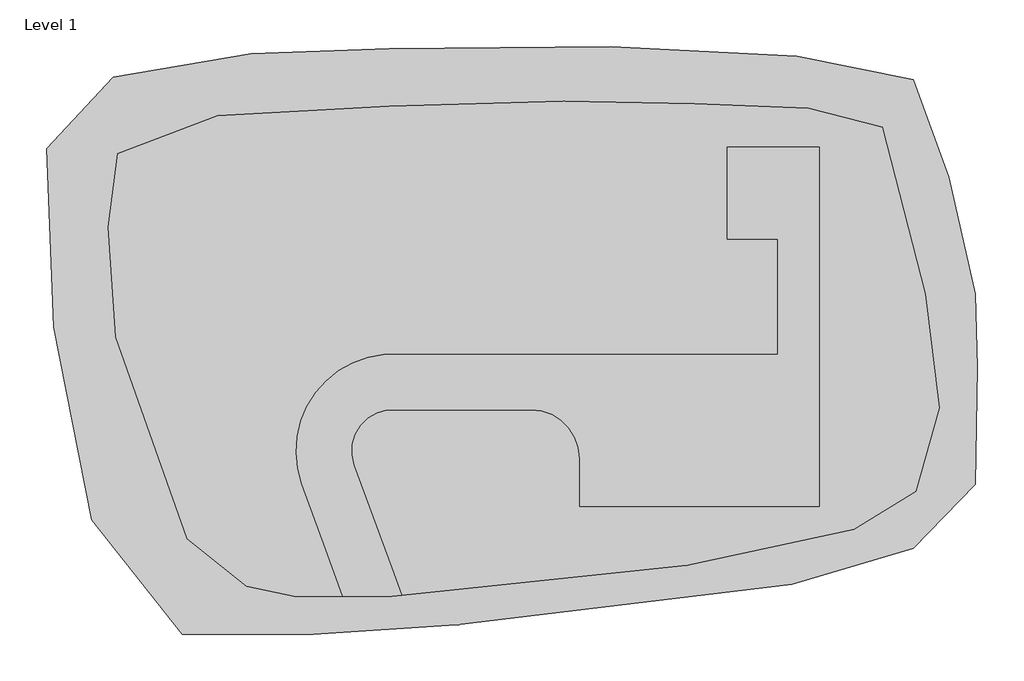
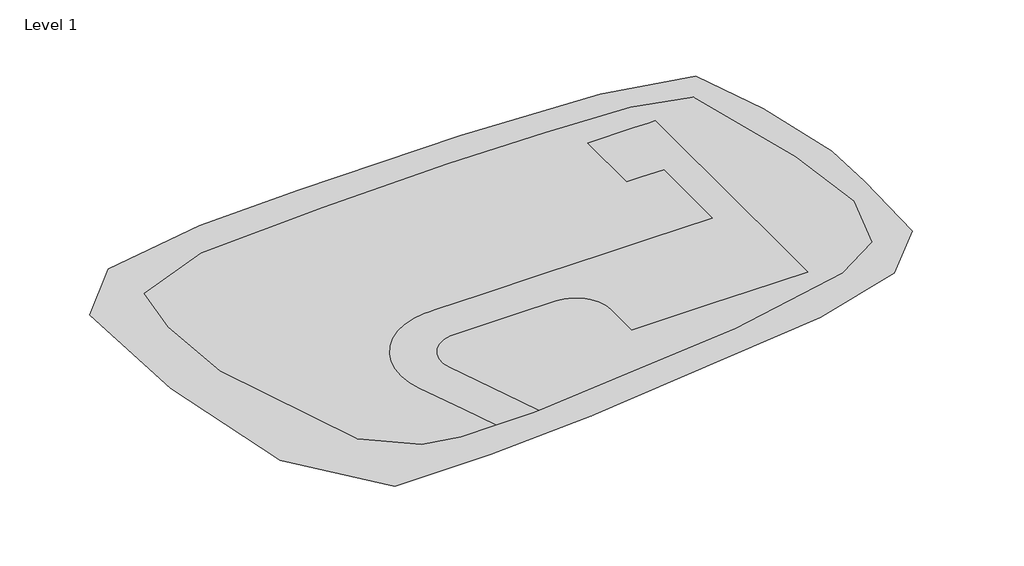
# One storey: 3 proxies.
"""IFC4 building model written with IfcOpenShell, lengths in millimetres."""

import ifcopenshell
import ifcopenshell.guid

model = None  # the IFC model being written
_history = None  # IfcOwnerHistory: only IFC2X3 demands one
_inside = {}  # id of a spatial element -> (the spatial element, [elements in it])
_under = {}  # id of a project, library or spatial element -> (it, [spatial elements below it])
_declared = {}  # id of a project -> (the project, [libraries it declares])
_typed = {}  # id of a type object -> (the type object, [elements of that type])
_made_of = {}  # id of a material, layer set ... -> (it, [elements and type objects made of it])


def new_model(schema):
    """Start an empty IFC model of exactly this schema.

    Asked for "IFC4X3", IfcOpenShell would pick the latest addendum, in which some entities
    have other attributes; the version numbers below select the first issue.
    IFC2X3 requires an IfcOwnerHistory on every rooted entity: one is made here for all.
    """
    global model, _history
    if schema == "IFC4X3":
        model = ifcopenshell.file(schema_version=(4, 3, 0, 0))
    else:
        model = ifcopenshell.file(schema=schema)
    _inside.clear()
    _under.clear()
    _declared.clear()
    _typed.clear()
    _made_of.clear()
    _history = None
    if model.schema == "IFC2X3":
        org = make("IfcOrganization", Name="unknown")
        user = make(
            "IfcPersonAndOrganization",
            ThePerson=make("IfcPerson", FamilyName="unknown"),
            TheOrganization=org,
        )
        app = make(
            "IfcApplication",
            ApplicationDeveloper=org,
            Version="unknown",
            ApplicationFullName="unknown",
            ApplicationIdentifier="unknown",
        )
        _history = make(
            "IfcOwnerHistory",
            OwningUser=user,
            OwningApplication=app,
            ChangeAction="ADDED",
            CreationDate=0,
        )
    return model


def make(cls, **values):
    """One entity of the class cls with the attributes given. An attribute that is None is left unset."""
    return model.create_entity(
        cls, **{name: value for name, value in values.items() if value is not None}
    )


def rooted(cls, **values):
    """An entity with a GlobalId (a new one), such as an element, a storey or a relation."""
    return make(cls, GlobalId=ifcopenshell.guid.new(), OwnerHistory=_history, **values)


def si_unit(unit_type, name, prefix=None):
    """IfcSIUnit, for example si_unit("LENGTHUNIT", "METRE", prefix="MILLI")."""
    return make("IfcSIUnit", UnitType=unit_type, Prefix=prefix, Name=name)


def assignment(units):
    """IfcUnitAssignment: the units of a project."""
    return None if units is None else make("IfcUnitAssignment", Units=units)


def point(xyz):
    """IfcCartesianPoint."""
    return None if xyz is None else make("IfcCartesianPoint", Coordinates=xyz)


def direction(xyz):
    """IfcDirection."""
    return None if xyz is None else make("IfcDirection", DirectionRatios=xyz)


def frame(location, z_axis=None, x_axis=None):
    """IfcAxis2Placement3D, a coordinate frame: its origin and axes. An axis left out is left unset."""
    return make(
        "IfcAxis2Placement3D",
        Location=point(location),
        Axis=direction(z_axis),
        RefDirection=direction(x_axis),
    )


def origin():
    """The frame at (0, 0, 0) with its axes left unset."""
    return frame((0.0, 0.0, 0.0))


def place(relative_to, where):
    """IfcLocalPlacement: puts the frame where relative to a parent placement (None: the world)."""
    return make(
        "IfcLocalPlacement", PlacementRelTo=relative_to, RelativePlacement=where
    )


def context(
    kind, dimensions, precision=None, world=None, true_north=None, identifier=None
):
    """IfcGeometricRepresentationContext, for example the 3D "Model" context."""
    return make(
        "IfcGeometricRepresentationContext",
        ContextIdentifier=identifier,
        ContextType=kind,
        CoordinateSpaceDimension=dimensions,
        Precision=precision,
        WorldCoordinateSystem=world,
        TrueNorth=true_north,
    )


def project(units=None, contexts=None):
    """IfcProject with its units and contexts."""
    return rooted(
        "IfcProject",
        Name="project",
        RepresentationContexts=contexts,
        UnitsInContext=assignment(units),
    )


def spatial(cls, under=None, at=None, **own):
    """A site, building, storey or space (cls), placed at a placement, below another one or the project."""
    s = rooted(cls, ObjectPlacement=at, **own)
    if under is not None:
        _under.setdefault(under.id(), (under, []))[1].append(s)
    return s


def point_list(points):
    """IfcCartesianPointList2D or 3D."""
    cls = (
        "IfcCartesianPointList2D" if len(points[0]) == 2 else "IfcCartesianPointList3D"
    )
    return make(cls, CoordList=points)


def triangles(points, corners, closed=None, point_numbers=None):
    """IfcTriangulatedFaceSet: each triangle names its three corners, points numbered from 1."""
    return make(
        "IfcTriangulatedFaceSet",
        Coordinates=point_list(points),
        Closed=closed,
        CoordIndex=corners,
        PnIndex=point_numbers,
    )


def shape(context_of_items, identifier, shape_type, items):
    """IfcShapeRepresentation: the items that make up one representation, for example the "Body"."""
    return make(
        "IfcShapeRepresentation",
        ContextOfItems=context_of_items,
        RepresentationIdentifier=identifier,
        RepresentationType=shape_type,
        Items=items,
    )


def made_of(thing, what):
    """Note that an element or type object is made of a material, layer set ...; save() writes the relation."""
    if what is not None:
        _made_of.setdefault(what.id(), (what, []))[1].append(thing)
    return thing


def element(
    cls,
    number,
    at=None,
    inside=None,
    cuts=None,
    type_object=None,
    material=None,
    context=None,
    identifier="Body",
    shape_type=None,
    held_by="IfcProductDefinitionShape",
    body=None,
    shapes=None,
    **own,
):
    """One element of the class cls, such as IfcWall. Its Tag is "e" and its number.

    at: its placement. inside: the storey or other place that contains it. cuts: it is an
    opening in that element (IfcRelVoidsElement). A single representation is given by context,
    identifier, shape_type and body (its items); several are given by shapes. held_by: the class
    of the entity that holds the representations. save() writes the other relations.
    """
    e = rooted(cls, Tag="e%d" % number, ObjectPlacement=at, **own)
    if body is not None:
        shapes = [shape(context, identifier, shape_type, body)]
    if shapes is not None:
        e.Representation = make(held_by, Representations=shapes)
    if inside is not None:
        _inside.setdefault(inside.id(), (inside, []))[1].append(e)
    if cuts is not None:
        rooted(
            "IfcRelVoidsElement", RelatingBuildingElement=cuts, RelatedOpeningElement=e
        )
    if type_object is not None:
        _typed.setdefault(type_object.id(), (type_object, []))[1].append(e)
    return made_of(e, material)


def aggregate(whole, parts):
    """IfcRelAggregates: a whole, such as a stair, and the parts it consists of."""
    return rooted("IfcRelAggregates", RelatingObject=whole, RelatedObjects=parts)


def save(model, path):
    """Write the relations noted so far, then the file.

    IfcRelAggregates (storeys below a building ...), IfcRelContainedInSpatialStructure (elements
    in a storey), IfcRelDefinesByType, IfcRelAssociatesMaterial and IfcRelDeclares: one each for
    every whole, place, type object, material and project.
    """
    for whole, parts in _under.values():
        aggregate(whole, parts)
    for where, things in _inside.values():
        rooted(
            "IfcRelContainedInSpatialStructure",
            RelatedElements=things,
            RelatingStructure=where,
        )
    for kind, things in _typed.values():
        rooted("IfcRelDefinesByType", RelatedObjects=things, RelatingType=kind)
    for what, things in _made_of.values():
        rooted("IfcRelAssociatesMaterial", RelatedObjects=things, RelatingMaterial=what)
    for by, libraries in _declared.values():
        rooted("IfcRelDeclares", RelatingContext=by, RelatedDefinitions=libraries)
    model.write(path)


model = new_model("IFC4")

# Units and contexts
model_context = context("Model", 3, world=origin())
ifc_project = project(units=[si_unit("LENGTHUNIT", "METRE", prefix="MILLI")], contexts=[model_context])

# Site, building, storey
site = spatial("IfcSite", under=ifc_project)
building = spatial("IfcBuilding", under=site)
storey = spatial("IfcBuildingStorey", under=building, Name="Level 1", Elevation=0.0)

# Proxies
placement = place(None, origin())
element("IfcBuildingElementProxy", 1, Name="Building Element Proxy", at=placement, inside=storey, context=model_context, shape_type="Tessellation", body=[
    triangles([(-16670.5417511, 5651.6538666, 0.0), (-16985.1585938, 8011.2813492, 0.0), (-14782.8395325, 10370.9088318, 0.0), (-10220.8924072, 11157.4515198, 0.0), (-5658.9458633, 11314.7593597, 0.0), (1655.8995071, 11393.4138611, 0.0), (7790.931427, 11078.7970184, 0.0), (11644.9892029, 10292.2543304, 0.0), (12824.8032349, 7067.4302399, 0.0), (13690.0004242, 3213.3718826, 0.0), (13768.6549255, 775.090044, 0.0), (13690.0004242, -3078.9684586, 0.0), (11644.9892029, -5202.6330185, 0.0), (7633.6230057, -6382.4470505, 0.0), (2757.0590378, -6854.3723145, 0.0), (-3456.6268021, -7719.5695038, 0.0), (-8175.8823486, -8034.1863464, 0.0), (-12501.8659698, -8034.1863464, 0.0), (-15490.7277191, -4258.7821999, 0.0), (-16749.1962524, 2112.212352, 0.0)], [[20, 19, 17], [20, 17, 5], [17, 19, 18], [5, 17, 16], [2, 1, 3], [1, 2, 20], [1, 4, 3], [1, 20, 4], [20, 5, 4], [16, 6, 5], [7, 15, 14], [14, 15, 16], [13, 12, 11], [13, 11, 14], [10, 14, 11], [6, 15, 7], [7, 9, 8], [9, 7, 10], [14, 10, 7], [15, 6, 16]], closed=False),
])
element("IfcBuildingElementProxy", 2, Name="Building Element Proxy", at=placement, inside=storey, context=model_context, shape_type="Tessellation", body=[
    triangles([(-14940.1473724, 5415.6909439, 304.8), (-14704.1850311, 1797.595364, 304.8), (-12344.5569672, -4888.0161758, 304.8), (-10378.2014099, -6461.1009705, 304.8), (-8805.1160339, -6775.7183945, 304.8), (-7192.7039886, -6775.7183945, 304.8), (-7757.5573013, -5232.607933, 304.8), (-8548.5869247, -3071.6119308, 304.8), (-8688.8417358, -2560.4969078, 304.8), (-8742.6256622, -2033.2238594, 304.8), (-8708.4579803, -1504.3170444, 304.8), (-8587.2787491, -988.3466492, 304.8), (-8382.4267181, -499.5261229, 304.8), (-8099.5451477, -51.3211407, 304.8), (-7746.426004, 343.9215219, 304.8), (-7332.7971817, 675.3140121, 304.8), (-6870.0527527, 933.727454, 304.8), (-6370.9401947, 1112.043314, 304.8), (-5849.2086685, 1205.3493919, 304.8), (-5619.0471359, 1207.8360861, 304.8), (-5319.2305527, 1211.0754232, 304.8), (-3235.2313042, 1211.0754232, 304.8), (-497.5126193, 1211.0754232, 304.8), (2315.692083, 1211.0754232, 304.8), (4280.5308723, 1211.0754232, 304.8), (7177.5694473, 1211.0754232, 304.8), (7177.5694473, 5021.0754959, 304.8), (6108.279483, 5021.0754959, 304.8), (5501.1694473, 5021.0754959, 304.8), (5501.1694473, 8069.0754959, 304.8), (7570.4780228, 8069.0754959, 304.8), (8241.5818268, 8069.0754959, 304.8), (8549.1694473, 8069.0754959, 304.8), (8549.1694473, 1211.0754232, 304.8), (8549.1694473, -764.1921627, 304.8), (8549.1694473, -3818.1245041, 304.8), (5870.2818008, -3818.1245041, 304.8), (4202.7597473, -3818.1245041, 304.8), (3656.8119667, -3818.1245041, 304.8), (624.3696653, -3818.1245041, 304.8), (624.3696653, -2222.0813725, 304.8), (584.1608914, -1865.2185619, 304.8), (465.5507984, -1526.250444, 304.8), (274.4870065, -1222.1742371, 304.8), (20.5502514, -968.2374115, 304.8), (-283.526026, -777.1736378, 304.8), (-622.4941984, -658.5635811, 304.8), (-627.0559839, -658.0495863, 304.8), (-979.3569363, -618.3547709, 304.8), (-2695.5491295, -618.3547709, 304.8), (-5399.2907822, -618.3547709, 304.8), (-5610.1651199, -621.8167688, 304.8), (-5744.8435272, -624.0278984, 304.8), (-6077.8842453, -716.3483534, 304.8), (-6377.0409851, -889.3920788, 304.8), (-6623.117244, -1132.0549559, 304.8), (-6800.3227066, -1428.765406, 304.8), (-6897.2865555, -1760.4836758, 304.8), (-6907.7853333, -2105.9234917, 304.8), (-6831.1469879, -2442.9180382, 304.8), (-5584.7951569, -5848.0168808, 304.8), (-5257.4569977, -6742.3215958, 304.8), (-1018.3451088, -6303.7925491, 304.8), (4172.8357018, -5753.2127838, 304.8), (9678.6330643, -4573.3990425, 304.8), (11723.6437042, -3314.9310905, 304.8), (12510.1863922, -562.0322639, 304.8), (12038.2605469, 3213.3718826, 304.8), (10622.4841736, 8719.1695358, 304.8), (8184.202771, 9348.4038025, 304.8), (4408.7983337, 9505.7122238, 304.8), (82.8144582, 9584.3661438, 304.8), (-5658.9458633, 9427.0577225, 304.8), (-11322.0519379, 9112.4408798, 304.8), (-14625.5305298, 7853.9729279, 304.8), (11173.0645203, 6516.8504745, 304.8), (-13681.6800018, -1033.9578186, 304.8)], [[3, 4, 8], [4, 7, 8], [7, 4, 5], [3, 8, 9], [77, 10, 11], [77, 3, 10], [11, 12, 77], [3, 9, 10], [13, 77, 12], [3, 77, 2], [6, 7, 5], [60, 52, 59], [60, 50, 51], [58, 59, 52], [52, 57, 58], [57, 52, 56], [56, 52, 55], [61, 50, 60], [13, 14, 2], [15, 16, 1], [14, 15, 2], [2, 15, 1], [1, 74, 75], [1, 16, 74], [74, 17, 73], [17, 74, 16], [13, 2, 77], [54, 52, 53], [54, 55, 52], [60, 51, 52], [19, 73, 18], [73, 19, 20], [21, 22, 73], [20, 21, 73], [73, 22, 72], [18, 73, 17], [61, 62, 63], [44, 48, 43], [49, 41, 48], [48, 42, 43], [40, 50, 63], [48, 41, 42], [48, 46, 47], [46, 48, 45], [44, 45, 48], [50, 40, 49], [64, 38, 39], [38, 64, 37], [64, 36, 37], [36, 64, 65], [36, 65, 66], [40, 41, 49], [35, 36, 66], [35, 66, 67], [40, 64, 39], [64, 40, 63], [23, 72, 22], [29, 24, 25], [24, 72, 23], [29, 25, 26], [71, 72, 30], [28, 29, 26], [29, 30, 72], [72, 24, 29], [71, 30, 70], [28, 26, 27], [68, 76, 34], [76, 33, 34], [68, 34, 67], [76, 68, 69], [31, 70, 30], [70, 31, 32], [33, 69, 70], [69, 33, 76], [33, 70, 32], [34, 35, 67], [63, 50, 61]], closed=False),
])
element("IfcBuildingElementProxy", 3, Name="Building Element Proxy", at=placement, inside=storey, context=model_context, shape_type="Tessellation", body=[
    triangles([(-5580.2919434, -6775.7183945, 304.8), (-5257.4569977, -6742.3215958, 304.8), (-5584.7951569, -5848.0168808, 304.8), (-6831.1469879, -2442.9180382, 304.8), (-6907.7853333, -2105.9234917, 304.8), (-6897.2865555, -1760.4836758, 304.8), (-6800.3227066, -1428.765406, 304.8), (-6623.117244, -1132.0549559, 304.8), (-6377.0409851, -889.3920788, 304.8), (-6077.8842453, -716.3483534, 304.8), (-5744.8435272, -624.0278984, 304.8), (-5610.1651199, -621.8167688, 304.8), (-5399.2907822, -618.3547709, 304.8), (-2695.5491295, -618.3547709, 304.8), (-979.3569363, -618.3547709, 304.8), (-627.0559839, -658.0495863, 304.8), (-622.4941984, -658.5635811, 304.8), (-283.526026, -777.1736378, 304.8), (20.5502514, -968.2374115, 304.8), (274.4870065, -1222.1742371, 304.8), (465.5507984, -1526.250444, 304.8), (584.1608914, -1865.2185619, 304.8), (624.3696653, -2222.0813725, 304.8), (624.3696653, -3818.1245041, 304.8), (3656.8119667, -3818.1245041, 304.8), (4202.7597473, -3818.1245041, 304.8), (5870.2818008, -3818.1245041, 304.8), (8549.1694473, -3818.1245041, 304.8), (8549.1694473, -764.1921627, 304.8), (8549.1694473, 1211.0754232, 304.8), (4280.5308723, 1211.0754232, 304.8), (2315.692083, 1211.0754232, 304.8), (-497.5126193, 1211.0754232, 304.8), (-3235.2313042, 1211.0754232, 304.8), (-5319.2305527, 1211.0754232, 304.8), (-5619.0471359, 1207.8360861, 304.8), (-5849.2086685, 1205.3493919, 304.8), (-6370.9401947, 1112.043314, 304.8), (-6870.0527527, 933.727454, 304.8), (-7332.7971817, 675.3140121, 304.8), (-7746.426004, 343.9215219, 304.8), (-8099.5451477, -51.3211407, 304.8), (-8382.4267181, -499.5261229, 304.8), (-8587.2787491, -988.3466492, 304.8), (-8708.4579803, -1504.3170444, 304.8), (-8742.6256622, -2033.2238594, 304.8), (-8688.8417358, -2560.4969078, 304.8), (-8548.5869247, -3071.6119308, 304.8), (-7757.5573013, -5232.607933, 304.8), (-7192.7039886, -6775.7183945, 304.8), (8549.1694473, 8069.0754959, 304.8), (8241.5818268, 8069.0754959, 304.8), (7570.4780228, 8069.0754959, 304.8), (5501.1694473, 8069.0754959, 304.8), (5501.1694473, 5021.0754959, 304.8), (6108.279483, 5021.0754959, 304.8), (7177.5694473, 5021.0754959, 304.8), (7177.5694473, 1211.0754232, 304.8)], [[4, 48, 49], [4, 47, 48], [6, 45, 46], [47, 5, 46], [4, 5, 47], [6, 46, 5], [49, 50, 3], [3, 1, 2], [3, 4, 49], [44, 6, 7], [45, 6, 44], [3, 50, 1], [43, 7, 8], [7, 43, 44], [9, 41, 8], [8, 42, 43], [8, 41, 42], [41, 9, 40], [40, 10, 39], [40, 9, 10], [10, 11, 38], [11, 12, 36], [36, 12, 13], [38, 11, 37], [37, 11, 36], [13, 35, 36], [35, 13, 34], [10, 38, 39], [32, 21, 22], [32, 20, 21], [33, 16, 17], [33, 18, 19], [33, 17, 18], [19, 20, 32], [27, 31, 26], [29, 27, 28], [23, 24, 25], [25, 32, 22], [31, 25, 26], [22, 23, 25], [58, 27, 29], [14, 15, 33], [15, 16, 33], [14, 33, 34], [19, 32, 33], [31, 32, 25], [14, 34, 13], [57, 30, 51], [30, 57, 58], [27, 58, 31], [56, 57, 53], [54, 56, 53], [52, 53, 57], [51, 52, 57], [56, 54, 55], [29, 30, 58]], closed=False),
])

save(model, "model.ifc")
